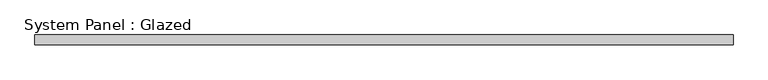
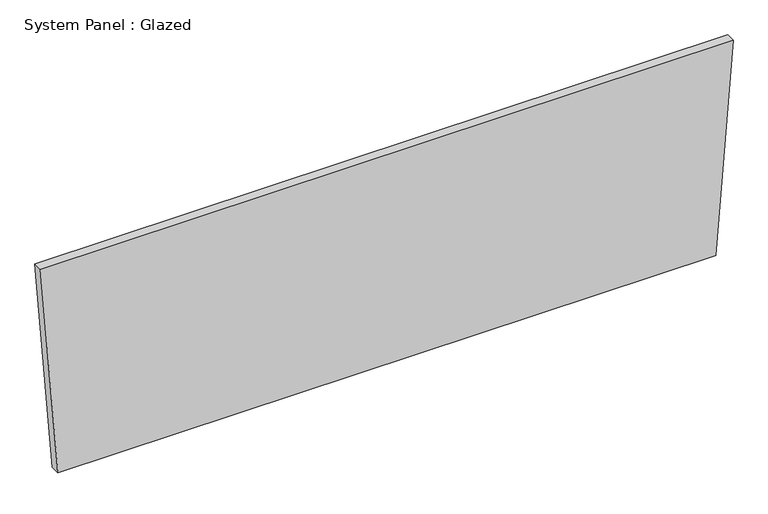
"""IFC4 building model written with IfcOpenShell, lengths in millimetres: plate geometry, System Panel : Glazed."""

from ifc_helpers import new_model, si_unit, frame, origin, place, context, project, spatial, polyline, outline, extrude, source, transform, mapped, element, save


def system_panel_glazed_ea272296(model_context):
    return source(origin(), model_context, "Body", "SweptSolid", [
        extrude(outline(polyline([(0.0, -865.1008508), (0.0, 865.1008508), (582.3327757, 910.7845728), (582.3327757, -910.7845728), (0.0, -865.1008508)])), frame((0.0, -44.45, 0.0), z_axis=(0.0, 1.0, 0.0), x_axis=(0.0, 0.0, 1.0)), (0.0, 0.0, 1.0), 25.4),
    ])


if __name__ == "__main__":
    model = new_model("IFC4")
    model_context = context("Model", 3, world=origin())
    ifc_project = project(units=[si_unit("LENGTHUNIT", "METRE", prefix="MILLI")], contexts=[model_context])
    site = spatial("IfcSite", under=ifc_project)
    building = spatial("IfcBuilding", under=site)
    placement = place(None, origin())
    system_panel_glazed_shape = system_panel_glazed_ea272296(model_context)
    element("IfcPlate", 1, ObjectType="System Panel : Glazed", at=placement, inside=building, context=model_context, shape_type="MappedRepresentation", body=[
        mapped(system_panel_glazed_shape, transform((0.0, 0.0, 0.0), x_axis=(1.0, 0.0, 0.0), y_axis=(0.0, 1.0, 0.0), z_axis=(0.0, 0.0, 1.0))),
    ])
    save(model, "model.ifc")
